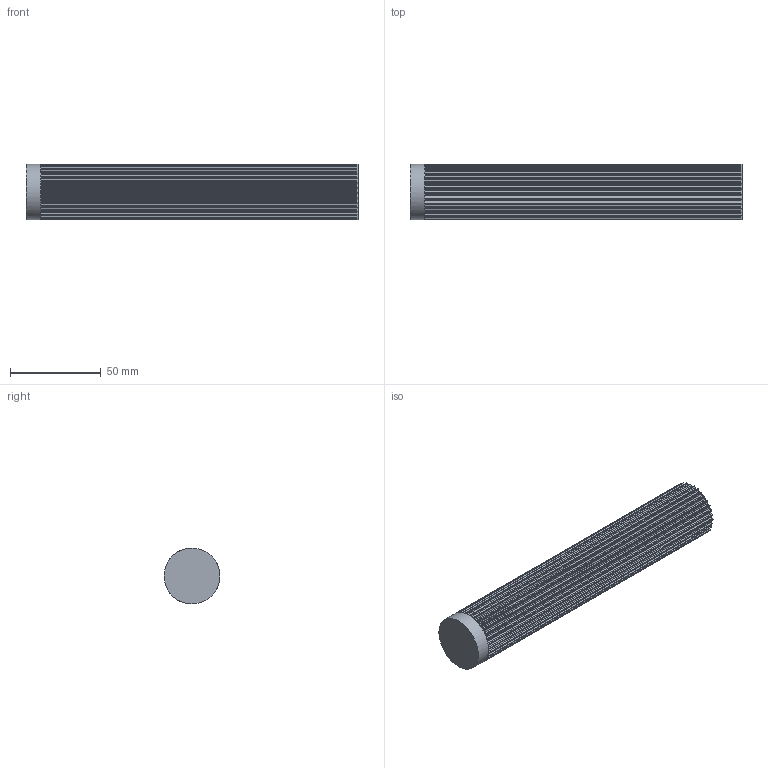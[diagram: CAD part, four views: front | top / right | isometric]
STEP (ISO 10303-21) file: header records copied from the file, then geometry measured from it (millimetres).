
FILE_DESCRIPTION( ( 'STEP AP214' ), '1' );
FILE_NAME( 'C:/Users/StangenbergN/Desktop/Steps Zahnriemenräder/K166_HTD-Zahnwellen/17093300.stp', '2019-06-06T09:34:49', ( '' ), ( '' ), ' ', 'PARTsolutions', ' ' );
FILE_SCHEMA( ( 'AUTOMOTIVE_DESIGN { 1 0 10303 214 1 1 1 1 }' ) );
Length unit declared in the file: millimetre
Products named in the file (1): _17093300
Bounding box: 183 x 30.75 x 30.75 mm (x, y, z)
Volume: 123628.7 mm3; surface area: 25302.8 mm2
Topology: 1 solids, 1 shells, 267 faces, 795 edges, 530 vertices
Faces by surface type: plane 134, cylinder 133
Full cylindrical faces by diameter (mm): 30.75 x1
Entity records: 11238 total; most frequent: DIRECTION 1660, CARTESIAN_POINT 1590, ORIENTED_EDGE 1586, EDGE_CURVE 793, AXIS2_PLACEMENT_3D 599, VERTEX_POINT 529, LINE 462, VECTOR 462
